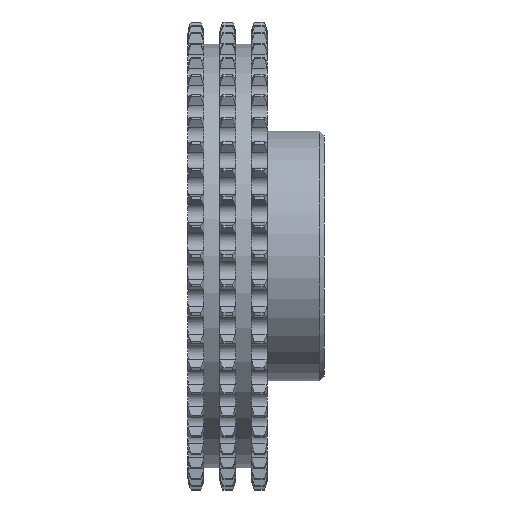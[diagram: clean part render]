
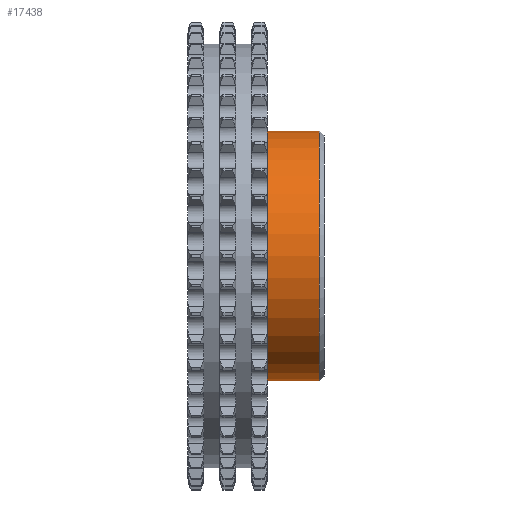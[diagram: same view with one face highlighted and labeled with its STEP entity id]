
A CAD part, front view. The second image highlights one B-rep face of the part: STEP entity #17438.
In plain terms, the highlighted cylindrical face has radius 55 mm (diameter 110 mm), a full revolution.
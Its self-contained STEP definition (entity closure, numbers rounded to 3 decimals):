
#322=FACE_BOUND('',#2156,.T.);
#1237=FACE_OUTER_BOUND('',#2155,.T.);
#2155=EDGE_LOOP('',(#15589));
#2156=EDGE_LOOP('',(#15590));
#3731=CIRCLE('',#18257,55.);
#4282=CIRCLE('',#19256,55.);
#7492=VERTEX_POINT('',#34507);
#7496=VERTEX_POINT('',#35510);
#9753=EDGE_CURVE('',#7492,#7492,#3731,.T.);
#10304=EDGE_CURVE('',#7496,#7496,#4282,.T.);
#15589=ORIENTED_EDGE('',*,*,#9753,.T.);
#15590=ORIENTED_EDGE('',*,*,#10304,.F.);
#16534=CYLINDRICAL_SURFACE('',#19255,55.);
#17438=ADVANCED_FACE('',(#1237,#322),#16534,.T.);
#18257=AXIS2_PLACEMENT_3D('',#34508,#21485,#21486);
#19255=AXIS2_PLACEMENT_3D('',#35509,#23481,#23482);
#19256=AXIS2_PLACEMENT_3D('',#35511,#23483,#23484);
#21485=DIRECTION('center_axis',(1.,0.,0.));
#21486=DIRECTION('ref_axis',(0.,0.,-1.));
#23481=DIRECTION('center_axis',(1.,0.,0.));
#23482=DIRECTION('ref_axis',(0.,1.,0.));
#23483=DIRECTION('center_axis',(1.,0.,0.));
#23484=DIRECTION('ref_axis',(0.,0.,-1.));
#34507=CARTESIAN_POINT('',(25.57,39.773,0.));
#34508=CARTESIAN_POINT('Origin',(25.57,-15.227,0.));
#35509=CARTESIAN_POINT('Origin',(39.07,-15.227,0.));
#35510=CARTESIAN_POINT('',(48.57,39.773,0.));
#35511=CARTESIAN_POINT('Origin',(48.57,-15.227,0.));
